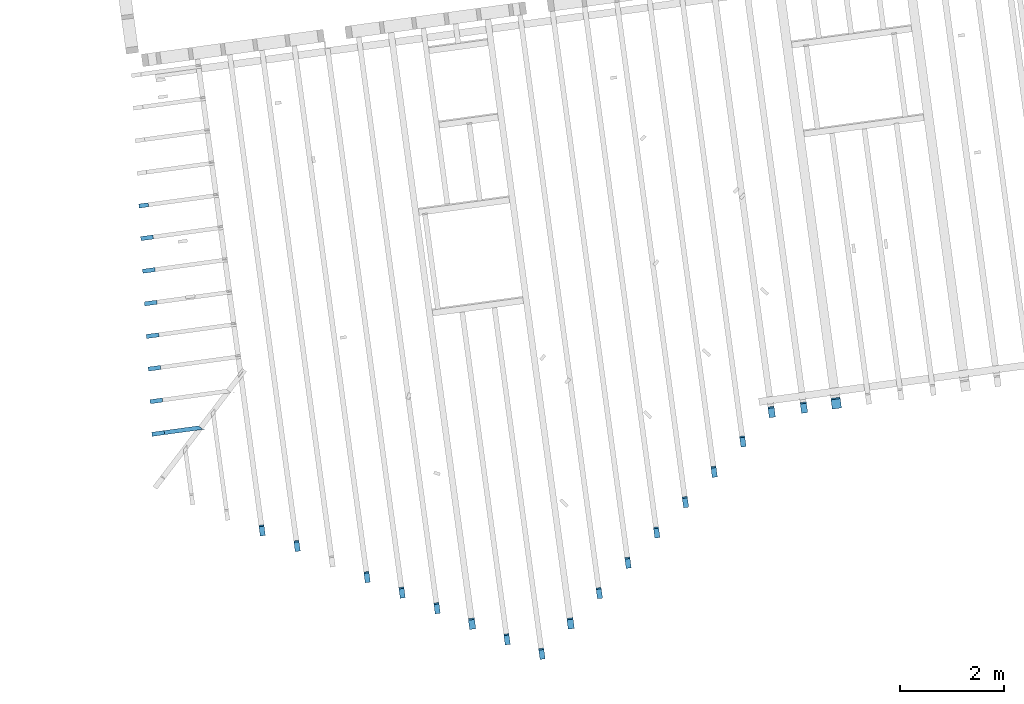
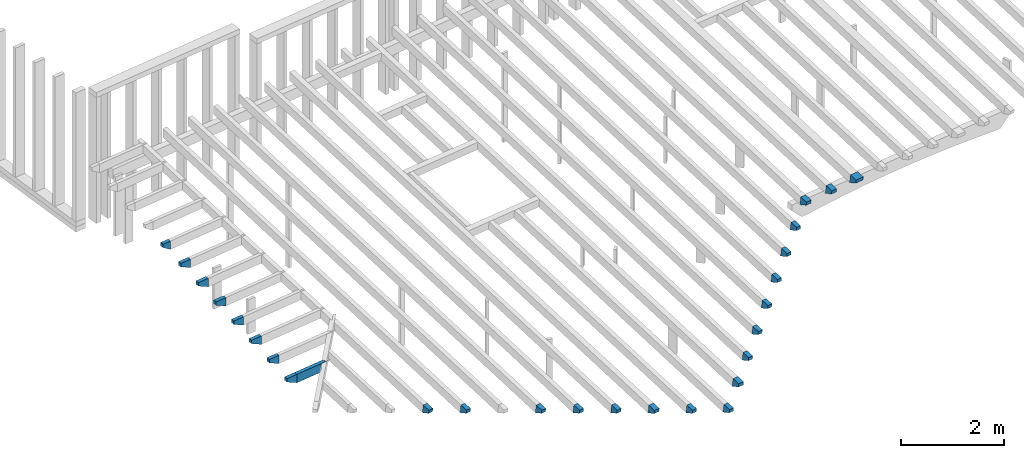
# One storey, part 12 of 16: 27 building element parts, 26 elements without a shape of their own.
"""IFC2X3 building model written with IfcOpenShell, lengths in metres."""

import ifcopenshell
import ifcopenshell.guid

model = None  # the IFC model being written
_history = None  # IfcOwnerHistory: only IFC2X3 demands one
_inside = {}  # id of a spatial element -> (the spatial element, [elements in it])
_under = {}  # id of a project, library or spatial element -> (it, [spatial elements below it])
_declared = {}  # id of a project -> (the project, [libraries it declares])
_typed = {}  # id of a type object -> (the type object, [elements of that type])
_made_of = {}  # id of a material, layer set ... -> (it, [elements and type objects made of it])


def new_model(schema):
    """Start an empty IFC model of exactly this schema.

    Asked for "IFC4X3", IfcOpenShell would pick the latest addendum, in which some entities
    have other attributes; the version numbers below select the first issue.
    IFC2X3 requires an IfcOwnerHistory on every rooted entity: one is made here for all.
    """
    global model, _history
    if schema == "IFC4X3":
        model = ifcopenshell.file(schema_version=(4, 3, 0, 0))
    else:
        model = ifcopenshell.file(schema=schema)
    _inside.clear()
    _under.clear()
    _declared.clear()
    _typed.clear()
    _made_of.clear()
    _history = None
    if model.schema == "IFC2X3":
        org = make("IfcOrganization", Name="unknown")
        user = make(
            "IfcPersonAndOrganization",
            ThePerson=make("IfcPerson", FamilyName="unknown"),
            TheOrganization=org,
        )
        app = make(
            "IfcApplication",
            ApplicationDeveloper=org,
            Version="unknown",
            ApplicationFullName="unknown",
            ApplicationIdentifier="unknown",
        )
        _history = make(
            "IfcOwnerHistory",
            OwningUser=user,
            OwningApplication=app,
            ChangeAction="ADDED",
            CreationDate=0,
        )
    return model


def make(cls, **values):
    """One entity of the class cls with the attributes given. An attribute that is None is left unset."""
    return model.create_entity(
        cls, **{name: value for name, value in values.items() if value is not None}
    )


def entity(cls, *values):
    """Any entity or typed value of the class cls, its attributes in the order of the schema. None: left unset."""
    e = model.create_entity(cls)
    for i, value in enumerate(values):
        if value is not None:
            e[i] = value
    return e


def rooted(cls, **values):
    """An entity with a GlobalId (a new one), such as an element, a storey or a relation."""
    return make(cls, GlobalId=ifcopenshell.guid.new(), OwnerHistory=_history, **values)


def si_unit(unit_type, name, prefix=None):
    """IfcSIUnit, for example si_unit("LENGTHUNIT", "METRE", prefix="MILLI")."""
    return make("IfcSIUnit", UnitType=unit_type, Prefix=prefix, Name=name)


def converted_unit(unit_type, name, factor, base, dimensions=None, offset=None):
    """IfcConversionBasedUnit, such as the inch: factor (a typed value) times the base unit."""
    return make(
        "IfcConversionBasedUnit"
        if offset is None
        else "IfcConversionBasedUnitWithOffset",
        ConversionOffset=offset,
        Dimensions=None
        if dimensions is None
        else entity("IfcDimensionalExponents", *dimensions),
        UnitType=unit_type,
        Name=name,
        ConversionFactor=make(
            "IfcMeasureWithUnit", ValueComponent=factor, UnitComponent=base
        ),
    )


def derived_unit(unit_type, elements):
    """IfcDerivedUnit: a product of units, each with its exponent."""
    return make(
        "IfcDerivedUnit",
        Elements=[
            make("IfcDerivedUnitElement", Unit=unit, Exponent=power)
            for unit, power in elements
        ],
        UnitType=unit_type,
    )


def money_unit(currency):
    """IfcMonetaryUnit."""
    return make("IfcMonetaryUnit", Currency=currency)


def assignment(units):
    """IfcUnitAssignment: the units of a project."""
    return None if units is None else make("IfcUnitAssignment", Units=units)


def point(xyz):
    """IfcCartesianPoint."""
    return None if xyz is None else make("IfcCartesianPoint", Coordinates=xyz)


def direction(xyz):
    """IfcDirection."""
    return None if xyz is None else make("IfcDirection", DirectionRatios=xyz)


def frame(location, z_axis=None, x_axis=None):
    """IfcAxis2Placement3D, a coordinate frame: its origin and axes. An axis left out is left unset."""
    return make(
        "IfcAxis2Placement3D",
        Location=point(location),
        Axis=direction(z_axis),
        RefDirection=direction(x_axis),
    )


def origin_with_axes():
    """The frame at (0, 0, 0) with the z axis (0, 0, 1) and the x axis (1, 0, 0) written out."""
    return frame((0.0, 0.0, 0.0), z_axis=(0.0, 0.0, 1.0), x_axis=(1.0, 0.0, 0.0))


def place(relative_to, where):
    """IfcLocalPlacement: puts the frame where relative to a parent placement (None: the world)."""
    return make(
        "IfcLocalPlacement", PlacementRelTo=relative_to, RelativePlacement=where
    )


def context(
    kind, dimensions, precision=None, world=None, true_north=None, identifier=None
):
    """IfcGeometricRepresentationContext, for example the 3D "Model" context."""
    return make(
        "IfcGeometricRepresentationContext",
        ContextIdentifier=identifier,
        ContextType=kind,
        CoordinateSpaceDimension=dimensions,
        Precision=precision,
        WorldCoordinateSystem=world,
        TrueNorth=true_north,
    )


def subcontext(parent, identifier, kind, view, scale=None):
    """IfcGeometricRepresentationSubContext, for example "Body" below "Model"."""
    return make(
        "IfcGeometricRepresentationSubContext",
        ContextIdentifier=identifier,
        ContextType=kind,
        ParentContext=parent,
        TargetScale=scale,
        TargetView=view,
    )


def project(units=None, contexts=None):
    """IfcProject with its units and contexts."""
    return rooted(
        "IfcProject",
        Name="project",
        RepresentationContexts=contexts,
        UnitsInContext=assignment(units),
    )


def spatial(cls, under=None, at=None, **own):
    """A site, building, storey or space (cls), placed at a placement, below another one or the project."""
    s = rooted(cls, ObjectPlacement=at, **own)
    if under is not None:
        _under.setdefault(under.id(), (under, []))[1].append(s)
    return s


def faces_of(points, faces, orient=None, outer=None):
    """IfcFace entities. A face is a list of loops; a loop is a list of indices into points, from 0.

    orient and outer hold one flag for each loop. By default every Orientation is true, the
    first loop of a face is its IfcFaceOuterBound and the others are IfcFaceBound.
    """
    made = []
    for i, loops in enumerate(faces):
        bounds = []
        for j, loop in enumerate(loops):
            is_outer = j == 0 if outer is None else outer[i][j]
            bounds.append(
                make(
                    "IfcFaceOuterBound" if is_outer else "IfcFaceBound",
                    Bound=make("IfcPolyLoop", Polygon=[points[k] for k in loop]),
                    Orientation=True if orient is None else orient[i][j],
                )
            )
        made.append(make("IfcFace", Bounds=bounds))
    return made


def faceted_brep(points, faces, orient=None, outer=None, voids=None):
    """IfcFacetedBrep: a solid bounded by flat faces; with voids (closed shells), ...WithVoids."""
    shared = [point(p) for p in points]
    hull = make("IfcClosedShell", CfsFaces=faces_of(shared, faces, orient, outer))
    if voids is None:
        return make("IfcFacetedBrep", Outer=hull)
    return make(
        "IfcFacetedBrepWithVoids",
        Outer=hull,
        Voids=[
            make(cls, CfsFaces=faces_of(shared, fs, o, b)) for cls, fs, o, b in voids
        ],
    )


def shape(context_of_items, identifier, shape_type, items):
    """IfcShapeRepresentation: the items that make up one representation, for example the "Body"."""
    return make(
        "IfcShapeRepresentation",
        ContextOfItems=context_of_items,
        RepresentationIdentifier=identifier,
        RepresentationType=shape_type,
        Items=items,
    )


def material(Name=None, Category=None):
    """IfcMaterial."""
    return make("IfcMaterial", Name=Name, Category=Category)


def made_of(thing, what):
    """Note that an element or type object is made of a material, layer set ...; save() writes the relation."""
    if what is not None:
        _made_of.setdefault(what.id(), (what, []))[1].append(thing)
    return thing


def type_object(cls, material=None, **own):
    """A type object (cls), such as IfcWallType, which elements share."""
    return made_of(rooted(cls, **own), material)


def element(
    cls,
    number,
    at=None,
    inside=None,
    cuts=None,
    type_object=None,
    material=None,
    context=None,
    identifier="Body",
    shape_type=None,
    held_by="IfcProductDefinitionShape",
    body=None,
    shapes=None,
    **own,
):
    """One element of the class cls, such as IfcWall. Its Tag is "e" and its number.

    at: its placement. inside: the storey or other place that contains it. cuts: it is an
    opening in that element (IfcRelVoidsElement). A single representation is given by context,
    identifier, shape_type and body (its items); several are given by shapes. held_by: the class
    of the entity that holds the representations. save() writes the other relations.
    """
    e = rooted(cls, Tag="e%d" % number, ObjectPlacement=at, **own)
    if body is not None:
        shapes = [shape(context, identifier, shape_type, body)]
    if shapes is not None:
        e.Representation = make(held_by, Representations=shapes)
    if inside is not None:
        _inside.setdefault(inside.id(), (inside, []))[1].append(e)
    if cuts is not None:
        rooted(
            "IfcRelVoidsElement", RelatingBuildingElement=cuts, RelatedOpeningElement=e
        )
    if type_object is not None:
        _typed.setdefault(type_object.id(), (type_object, []))[1].append(e)
    return made_of(e, material)


def aggregate(whole, parts):
    """IfcRelAggregates: a whole, such as a stair, and the parts it consists of."""
    return rooted("IfcRelAggregates", RelatingObject=whole, RelatedObjects=parts)


def save(model, path):
    """Write the relations noted so far, then the file.

    IfcRelAggregates (storeys below a building ...), IfcRelContainedInSpatialStructure (elements
    in a storey), IfcRelDefinesByType, IfcRelAssociatesMaterial and IfcRelDeclares: one each for
    every whole, place, type object, material and project.
    """
    for whole, parts in _under.values():
        aggregate(whole, parts)
    for where, things in _inside.values():
        rooted(
            "IfcRelContainedInSpatialStructure",
            RelatedElements=things,
            RelatingStructure=where,
        )
    for kind, things in _typed.values():
        rooted("IfcRelDefinesByType", RelatedObjects=things, RelatingType=kind)
    for what, things in _made_of.values():
        rooted("IfcRelAssociatesMaterial", RelatedObjects=things, RelatingMaterial=what)
    for by, libraries in _declared.values():
        rooted("IfcRelDeclares", RelatingContext=by, RelatedDefinitions=libraries)
    model.write(path)


model = new_model("IFC2X3")

# Units and contexts
model_context = context("Model", 3, precision=1e-05, world=origin_with_axes(), true_north=direction((0.0, 1.0)))
body_context = subcontext(model_context, "Body", "Model", "MODEL_VIEW")
ifc_project = project(units=[si_unit("LENGTHUNIT", "METRE"), si_unit("AREAUNIT", "SQUARE_METRE"), si_unit("VOLUMEUNIT", "CUBIC_METRE"), converted_unit("PLANEANGLEUNIT", "DEGREE", entity("IfcPlaneAngleMeasure", 0.0174532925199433), si_unit("PLANEANGLEUNIT", "RADIAN"), dimensions=[0, 0, 0, 0, 0, 0, 0]), money_unit("EUR"), converted_unit("TIMEUNIT", "Year", entity("IfcTimeMeasure", 31557600.0), si_unit("TIMEUNIT", "SECOND"), dimensions=[0, 0, 1, 0, 0, 0, 0]), si_unit("MASSUNIT", "GRAM", prefix="KILO"), si_unit("THERMODYNAMICTEMPERATUREUNIT", "DEGREE_CELSIUS"), si_unit("LUMINOUSINTENSITYUNIT", "LUMEN"), si_unit("ENERGYUNIT", "JOULE", prefix="MEGA"), derived_unit("THERMALCONDUCTANCEUNIT", [(si_unit("POWERUNIT", "WATT"), 1), (si_unit("LENGTHUNIT", "METRE"), -1), (si_unit("THERMODYNAMICTEMPERATUREUNIT", "KELVIN"), -1)]), derived_unit("SPECIFICHEATCAPACITYUNIT", [(si_unit("ENERGYUNIT", "JOULE"), 1), (si_unit("MASSUNIT", "GRAM", prefix="KILO"), -1), (si_unit("THERMODYNAMICTEMPERATUREUNIT", "KELVIN"), -1)]), derived_unit("MASSDENSITYUNIT", [(si_unit("MASSUNIT", "GRAM", prefix="KILO"), 1), (si_unit("VOLUMEUNIT", "CUBIC_METRE"), -1)])], contexts=[model_context])

# Site, building, storey
site_placement = place(None, origin_with_axes())
site = spatial("IfcSite", under=ifc_project, at=site_placement, Name="Gelände", CompositionType="ELEMENT")
building_placement = place(site_placement, origin_with_axes())
building = spatial("IfcBuilding", under=site, at=building_placement, Name="Gebäude", CompositionType="ELEMENT")
storey_placement = place(building_placement, frame((0.0, 0.0, 3.0), z_axis=(0.0, 0.0, 1.0), x_axis=(1.0, 0.0, 0.0)))
storey = spatial("IfcBuildingStorey", under=building, at=storey_placement, Name="ZG", CompositionType="ELEMENT", Elevation=3.0)

# Beam, building element part
beam_type_1 = type_object("IfcBeamType", Name="Verschiedene Strukturen - 2 Segmente - 80 x 200 x 1546 (182+1364)", PredefinedType="NOTDEFINED")
beam_1_placement = place(storey_placement, frame((86.69263476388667, -153.7898522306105, 1.454062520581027), z_axis=(0.0, 0.0, 1.0), x_axis=(0.1357118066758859, -0.9907483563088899, 0.0)))
beam_1 = element("IfcBeam", 1, at=beam_1_placement, inside=storey, type_object=beam_type_1, Name="Unterzug-034")
ifc_material = material(Name="Holz, Bauholz-hart")
building_element_part_1_placement = place(beam_1_placement, origin_with_axes())
building_element_part_1 = element("IfcBuildingElementPart", 2, at=building_element_part_1_placement, material=ifc_material, Name="Holz, Bauholz-hart", context=body_context, shape_type="Brep", body=[
    faceted_brep([(0.04000000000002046, 0.1824875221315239, -0.2000000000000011), (0.04000000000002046, 0.0, -0.0799999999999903), (-0.03999999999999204, 0.0, -0.0799999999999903), (-0.04000000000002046, 0.1824875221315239, -0.2000000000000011), (0.04000000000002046, 0.1824875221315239, 0.0), (0.04000000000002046, 0.0, 0.0), (-0.03999999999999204, 0.0, 0.0), (-0.04000000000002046, 0.1824875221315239, 0.0)], [[[0, 1, 2, 3]], [[4, 5, 1, 0]], [[5, 6, 2, 1]], [[3, 2, 6, 7]], [[4, 0, 3, 7]], [[7, 6, 5, 4]]]),
])
aggregate(beam_1, [building_element_part_1])

beam_type_2 = type_object("IfcBeamType", Name="Verschiedene Strukturen - 2 Segmente - 100 x 200 x 9376 (183+9193)", PredefinedType="NOTDEFINED")
beam_2_placement = place(storey_placement, frame((97.74728750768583, -158.9940395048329, 0.5185833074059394), z_axis=(0.0, 0.0, 1.0), x_axis=(0.9907484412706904, 0.1357111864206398, 0.0)))
beam_2 = element("IfcBeam", 3, at=beam_2_placement, inside=storey, type_object=beam_type_2, Name="Unterzug-034")
building_element_part_2_placement = place(beam_2_placement, origin_with_axes())
building_element_part_2 = element("IfcBuildingElementPart", 4, at=building_element_part_2_placement, material=ifc_material, Name="Holz, Bauholz-hart", context=body_context, shape_type="Brep", body=[
    faceted_brep([(0.05000000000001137, 0.2085613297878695, -0.1726541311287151), (0.05000000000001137, 0.01113384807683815, -0.07922144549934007), (-0.05000000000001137, 0.01113384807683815, -0.07922144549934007), (-0.04999999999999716, 0.2085613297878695, -0.1726541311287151), (0.04999999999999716, 0.1807267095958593, 0.02539948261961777), (0.05000000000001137, 0.0, 0.0), (-0.04999999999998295, 0.0, 0.0), (-0.04999999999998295, 0.1807267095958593, 0.02539948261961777)], [[[0, 1, 2, 3]], [[4, 5, 1, 0]], [[5, 6, 2, 1]], [[3, 2, 6, 7]], [[4, 0, 3, 7]], [[7, 6, 5, 4]]]),
])
aggregate(beam_2, [building_element_part_2])

beam_type_3 = type_object("IfcBeamType", Name="Verschiedene Strukturen - 2 Segmente - 100 x 200 x 9883 (183+9700)", PredefinedType="NOTDEFINED")
beam_3_placement = place(storey_placement, frame((97.19620038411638, -159.5762411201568, 0.4480280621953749), z_axis=(0.0, 0.0, 1.0), x_axis=(0.9907484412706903, 0.1357111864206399, 0.0)))
beam_3 = element("IfcBeam", 5, at=beam_3_placement, inside=storey, type_object=beam_type_3, Name="Unterzug-034")
building_element_part_3_placement = place(beam_3_placement, origin_with_axes())
building_element_part_3 = element("IfcBuildingElementPart", 6, at=building_element_part_3_placement, material=ifc_material, Name="Holz, Bauholz-hart", context=body_context, shape_type="Brep", body=[
    faceted_brep([(0.05000000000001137, 0.2085613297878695, -0.172654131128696), (0.04999999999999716, 0.01113384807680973, -0.07922144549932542), (-0.04999999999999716, 0.01113384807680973, -0.07922144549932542), (-0.05000000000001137, 0.2085613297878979, -0.172654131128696), (0.04999999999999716, 0.1807267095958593, 0.02539948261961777), (0.04999999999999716, 0.0, 0.0), (-0.05000000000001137, 0.0, 0.0), (-0.04999999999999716, 0.1807267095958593, 0.02539948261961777)], [[[0, 1, 2, 3]], [[4, 5, 1, 0]], [[5, 6, 2, 1]], [[3, 2, 6, 7]], [[4, 0, 3, 7]], [[7, 6, 5, 4]]]),
])
aggregate(beam_3, [building_element_part_3])

beam_type_4 = type_object("IfcBeamType", Name="Verschiedene Strukturen - 2 Segmente - 100 x 200 x 10390 (183+10207)", PredefinedType="NOTDEFINED")
beam_4_placement = place(storey_placement, frame((96.64511324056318, -160.1584427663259, 0.3774728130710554), z_axis=(0.0, 0.0, 1.0), x_axis=(0.9907484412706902, 0.1357111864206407, 0.0)))
beam_4 = element("IfcBeam", 7, at=beam_4_placement, inside=storey, type_object=beam_type_4, Name="Unterzug-034")
building_element_part_4_placement = place(beam_4_placement, origin_with_axes())
building_element_part_4 = element("IfcBuildingElementPart", 8, at=building_element_part_4_placement, material=ifc_material, Name="Holz, Bauholz-hart", context=body_context, shape_type="Brep", body=[
    faceted_brep([(0.04999999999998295, 0.208561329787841, -0.1726541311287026), (0.04999999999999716, 0.01113384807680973, -0.07922144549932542), (-0.05000000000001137, 0.01113384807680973, -0.07922144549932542), (-0.05000000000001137, 0.208561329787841, -0.1726541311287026), (0.04999999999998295, 0.1807267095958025, 0.02539948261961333), (0.04999999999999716, 0.0, 0.0), (-0.05000000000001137, 0.0, 0.0), (-0.05000000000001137, 0.1807267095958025, 0.02539948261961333)], [[[0, 1, 2, 3]], [[4, 5, 1, 0]], [[5, 6, 2, 1]], [[3, 2, 6, 7]], [[4, 0, 3, 7]], [[7, 6, 5, 4]]]),
])
aggregate(beam_4, [building_element_part_4])

beam_type_5 = type_object("IfcBeamType", Name="Verschiedene Strukturen - 2 Segmente - 100 x 200 x 10897 (183+10714)", PredefinedType="NOTDEFINED")
beam_5_placement = place(storey_placement, frame((96.09402609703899, -160.7406444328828, 0.306917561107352), z_axis=(0.0, 0.0, 1.0), x_axis=(0.9907484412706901, 0.1357111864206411, 0.0)))
beam_5 = element("IfcBeam", 9, at=beam_5_placement, inside=storey, type_object=beam_type_5, Name="Unterzug-034")
building_element_part_5_placement = place(beam_5_placement, origin_with_axes())
building_element_part_5 = element("IfcBuildingElementPart", 10, at=building_element_part_5_placement, material=ifc_material, Name="Holz, Bauholz-hart", context=body_context, shape_type="Brep", body=[
    faceted_brep([(0.05000000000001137, 0.2085613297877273, -0.1726541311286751), (0.04999999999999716, 0.01113384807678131, -0.07922144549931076), (-0.04999999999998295, 0.01113384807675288, -0.07922144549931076), (-0.05000000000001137, 0.2085613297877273, -0.1726541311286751), (0.04999999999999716, 0.1807267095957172, 0.02539948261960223), (0.04999999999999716, 0.0, 0.0), (-0.05000000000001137, 0.0, 0.0), (-0.04999999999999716, 0.1807267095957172, 0.02539948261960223)], [[[0, 1, 2, 3]], [[4, 5, 1, 0]], [[5, 6, 2, 1]], [[3, 2, 6, 7]], [[4, 0, 3, 7]], [[7, 6, 5, 4]]]),
])
aggregate(beam_5, [building_element_part_5])

beam_type_6 = type_object("IfcBeamType", Name="Verschiedene Strukturen - 2 Segmente - 100 x 200 x 11416 (183+11234)", PredefinedType="NOTDEFINED")
beam_6_placement = place(storey_placement, frame((95.54293893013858, -161.3228461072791, 0.2363623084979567), z_axis=(0.0, 0.0, 1.0), x_axis=(0.9907484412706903, 0.1357111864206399, 0.0)))
beam_6 = element("IfcBeam", 11, at=beam_6_placement, inside=storey, type_object=beam_type_6, Name="Unterzug-034")
building_element_part_6_placement = place(beam_6_placement, origin_with_axes())
building_element_part_6 = element("IfcBuildingElementPart", 12, at=building_element_part_6_placement, material=ifc_material, Name="Holz, Bauholz-hart", context=body_context, shape_type="Brep", body=[
    faceted_brep([(0.05000000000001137, 0.2085613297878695, -0.1726541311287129), (0.04999999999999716, 0.01113384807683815, -0.07922144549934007), (-0.04999999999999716, 0.01113384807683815, -0.07922144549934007), (-0.05000000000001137, 0.2085613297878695, -0.1726541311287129), (0.04999999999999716, 0.1807267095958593, 0.02539948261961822), (0.05000000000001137, 0.0, 0.0), (-0.04999999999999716, 0.0, 0.0), (-0.04999999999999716, 0.1807267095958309, 0.02539948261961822)], [[[0, 1, 2, 3]], [[4, 5, 1, 0]], [[5, 6, 2, 1]], [[3, 2, 6, 7]], [[4, 0, 3, 7]], [[7, 6, 5, 4]]]),
])
aggregate(beam_6, [building_element_part_6])

beam_type_7 = type_object("IfcBeamType", Name="Verschiedene Strukturen - 2 Segmente - 120 x 200 x 11923 (183+11741)", PredefinedType="NOTDEFINED")
beam_7_placement = place(storey_placement, frame((94.99185178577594, -161.9050477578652, 0.1658070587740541), z_axis=(0.0, 0.0, 1.0), x_axis=(0.9907484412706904, 0.1357111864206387, 0.0)))
beam_7 = element("IfcBeam", 13, at=beam_7_placement, inside=storey, type_object=beam_type_7, Name="Unterzug-034")
building_element_part_7_placement = place(beam_7_placement, origin_with_axes())
building_element_part_7 = element("IfcBuildingElementPart", 14, at=building_element_part_7_placement, material=ifc_material, Name="Holz, Bauholz-hart", context=body_context, shape_type="Brep", body=[
    faceted_brep([(0.0600000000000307, 0.2085613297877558, -0.172654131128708), (0.06000000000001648, 0.01113384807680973, -0.07922144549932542), (-0.06000000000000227, 0.01113384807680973, -0.07922144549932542), (-0.05999999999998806, 0.2085613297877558, -0.172654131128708), (0.06000000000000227, 0.1807267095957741, 0.02539948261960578), (0.06000000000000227, 0.0, 0.0), (-0.06000000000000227, 0.0, 0.0), (-0.06000000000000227, 0.1807267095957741, 0.02539948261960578)], [[[0, 1, 2, 3]], [[4, 5, 1, 0]], [[5, 6, 2, 1]], [[3, 2, 6, 7]], [[4, 0, 3, 7]], [[7, 6, 5, 4]]]),
])
aggregate(beam_7, [building_element_part_7])

beam_type_8 = type_object("IfcBeamType", Name="Verschiedene Strukturen - 2 Segmente - 120 x 200 x 11670 (183+11487)", PredefinedType="NOTDEFINED")
beam_8_placement = place(storey_placement, frame((93.10012835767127, -161.9107794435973, 0.2010897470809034), z_axis=(0.0, 0.0, 1.0), x_axis=(0.9907484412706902, 0.135711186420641, 0.0)))
beam_8 = element("IfcBeam", 15, at=beam_8_placement, inside=storey, type_object=beam_type_8, Name="Unterzug-034")
building_element_part_8_placement = place(beam_8_placement, origin_with_axes())
building_element_part_8 = element("IfcBuildingElementPart", 16, at=building_element_part_8_placement, material=ifc_material, Name="Holz, Bauholz-hart", context=body_context, shape_type="Brep", body=[
    faceted_brep([(0.05999999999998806, 0.2085613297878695, -0.1726541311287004), (0.05999999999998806, 0.01113384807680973, -0.07922144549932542), (-0.06000000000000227, 0.01113384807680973, -0.07922144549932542), (-0.06000000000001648, 0.2085613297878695, -0.1726541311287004), (0.05999999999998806, 0.1807267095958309, 0.02539948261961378), (0.06000000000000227, 0.0, 0.0), (-0.06000000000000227, 0.0, 0.0), (-0.06000000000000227, 0.1807267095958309, 0.02539948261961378)], [[[0, 1, 2, 3]], [[4, 5, 1, 0]], [[5, 6, 2, 1]], [[3, 2, 6, 7]], [[4, 0, 3, 7]], [[7, 6, 5, 4]]]),
])
aggregate(beam_8, [building_element_part_8])

beam_type_9 = type_object("IfcBeamType", Name="Verschiedene Strukturen - 2 Segmente - 100 x 200 x 11279 (183+11096)", PredefinedType="NOTDEFINED")
beam_9_placement = place(storey_placement, frame((92.42839764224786, -161.6122324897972, 0.2554715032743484), z_axis=(0.0, 0.0, 1.0), x_axis=(0.9907484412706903, 0.1357111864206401, 0.0)))
beam_9 = element("IfcBeam", 17, at=beam_9_placement, inside=storey, type_object=beam_type_9, Name="Unterzug-034")
building_element_part_9_placement = place(beam_9_placement, origin_with_axes())
building_element_part_9 = element("IfcBuildingElementPart", 18, at=building_element_part_9_placement, material=ifc_material, Name="Holz, Bauholz-hart", context=body_context, shape_type="Brep", body=[
    faceted_brep([(0.05000000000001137, 0.208561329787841, -0.17265413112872), (0.05000000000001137, 0.01113384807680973, -0.07922144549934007), (-0.04999999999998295, 0.01113384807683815, -0.07922144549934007), (-0.04999999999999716, 0.208561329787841, -0.17265413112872), (0.05000000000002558, 0.1807267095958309, 0.02539948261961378), (0.05000000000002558, 0.0, 0.0), (-0.04999999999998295, 0.0, 0.0), (-0.04999999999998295, 0.1807267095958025, 0.02539948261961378)], [[[0, 1, 2, 3]], [[4, 5, 1, 0]], [[5, 6, 2, 1]], [[3, 2, 6, 7]], [[4, 0, 3, 7]], [[7, 6, 5, 4]]]),
])
aggregate(beam_9, [building_element_part_9])

beam_type_10 = type_object("IfcBeamType", Name="Verschiedene Strukturen - 2 Segmente - 100 x 200 x 10888 (183+10706)", PredefinedType="NOTDEFINED")
beam_10_placement = place(storey_placement, frame((91.7566669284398, -161.3136855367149, 0.3098532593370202), z_axis=(0.0, 0.0, 1.0), x_axis=(0.9907484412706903, 0.1357111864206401, 0.0)))
beam_10 = element("IfcBeam", 19, at=beam_10_placement, inside=storey, type_object=beam_type_10, Name="Unterzug-034")
building_element_part_10_placement = place(beam_10_placement, origin_with_axes())
building_element_part_10 = element("IfcBuildingElementPart", 20, at=building_element_part_10_placement, material=ifc_material, Name="Holz, Bauholz-hart", context=body_context, shape_type="Brep", body=[
    faceted_brep([(0.05000000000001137, 0.2085613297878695, -0.1726541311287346), (0.04999999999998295, 0.01113384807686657, -0.07922144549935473), (-0.04999999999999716, 0.01113384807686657, -0.07922144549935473), (-0.04999999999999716, 0.2085613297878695, -0.1726541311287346), (0.04999999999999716, 0.1807267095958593, 0.02539948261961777), (0.05000000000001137, 0.0, 0.0), (-0.04999999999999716, 0.0, 0.0), (-0.04999999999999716, 0.1807267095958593, 0.02539948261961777)], [[[0, 1, 2, 3]], [[4, 5, 1, 0]], [[5, 6, 2, 1]], [[3, 2, 6, 7]], [[4, 0, 3, 7]], [[7, 6, 5, 4]]]),
])
aggregate(beam_10, [building_element_part_10])

beam_type_11 = type_object("IfcBeamType", Name="Verschiedene Strukturen - 2 Segmente - 100 x 200 x 10497 (183+10315)", PredefinedType="NOTDEFINED")
beam_11_placement = place(storey_placement, frame((91.08493619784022, -161.0151385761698, 0.3642350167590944), z_axis=(0.0, 0.0, 1.0), x_axis=(0.9907484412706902, 0.1357111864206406, 0.0)))
beam_11 = element("IfcBeam", 21, at=beam_11_placement, inside=storey, type_object=beam_type_11, Name="Unterzug-034")
building_element_part_11_placement = place(beam_11_placement, origin_with_axes())
building_element_part_11 = element("IfcBuildingElementPart", 22, at=building_element_part_11_placement, material=ifc_material, Name="Holz, Bauholz-hart", context=body_context, shape_type="Brep", body=[
    faceted_brep([(0.05000000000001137, 0.2085613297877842, -0.1726541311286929), (0.04999999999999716, 0.01113384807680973, -0.07922144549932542), (-0.05000000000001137, 0.01113384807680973, -0.07922144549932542), (-0.04999999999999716, 0.2085613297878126, -0.1726541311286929), (0.04999999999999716, 0.1807267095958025, 0.02539948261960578), (0.04999999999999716, 0.0, 0.0), (-0.04999999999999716, 0.0, 0.0), (-0.05000000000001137, 0.1807267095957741, 0.02539948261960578)], [[[0, 1, 2, 3]], [[4, 5, 1, 0]], [[5, 6, 2, 1]], [[3, 2, 6, 7]], [[4, 0, 3, 7]], [[7, 6, 5, 4]]]),
])
aggregate(beam_11, [building_element_part_11])

beam_type_12 = type_object("IfcBeamType", Name="Verschiedene Strukturen - 2 Segmente - 100 x 200 x 9716 (183+9533)", PredefinedType="NOTDEFINED")
beam_12_placement = place(storey_placement, frame((89.74147485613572, -160.4180447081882, 0.4729985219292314), z_axis=(0.0, 0.0, 1.0), x_axis=(0.9907484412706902, 0.1357111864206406, 0.0)))
beam_12 = element("IfcBeam", 23, at=beam_12_placement, inside=storey, type_object=beam_type_12, Name="Unterzug-034")
building_element_part_12_placement = place(beam_12_placement, origin_with_axes())
building_element_part_12 = element("IfcBuildingElementPart", 24, at=building_element_part_12_placement, material=ifc_material, Name="Holz, Bauholz-hart", context=body_context, shape_type="Brep", body=[
    faceted_brep([(0.04999999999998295, 0.2085613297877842, -0.1726541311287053), (0.05000000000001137, 0.01113384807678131, -0.07922144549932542), (-0.05000000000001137, 0.01113384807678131, -0.07922144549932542), (-0.04999999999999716, 0.2085613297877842, -0.1726541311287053), (0.04999999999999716, 0.1807267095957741, 0.02539948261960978), (0.04999999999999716, 0.0, 0.0), (-0.04999999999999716, 0.0, 0.0), (-0.04999999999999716, 0.1807267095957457, 0.02539948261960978)], [[[0, 1, 2, 3]], [[4, 5, 1, 0]], [[5, 6, 2, 1]], [[3, 2, 6, 7]], [[4, 0, 3, 7]], [[7, 6, 5, 4]]]),
])
aggregate(beam_12, [building_element_part_12])

beam_type_13 = type_object("IfcBeamType", Name="Verschiedene Strukturen - 2 Segmente - 100 x 200 x 9325 (183+9143)", PredefinedType="NOTDEFINED")
beam_13_placement = place(storey_placement, frame((89.06974402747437, -160.11949770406, 0.5273802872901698), z_axis=(0.0, 0.0, 1.0), x_axis=(0.9907484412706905, 0.1357111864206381, 0.0)))
beam_13 = element("IfcBeam", 25, at=beam_13_placement, inside=storey, type_object=beam_type_13, Name="Unterzug-034")
building_element_part_13_placement = place(beam_13_placement, origin_with_axes())
building_element_part_13 = element("IfcBuildingElementPart", 26, at=building_element_part_13_placement, material=ifc_material, Name="Holz, Bauholz-hart", context=body_context, shape_type="Brep", body=[
    faceted_brep([(0.04999999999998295, 0.2085613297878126, -0.172654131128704), (0.04999999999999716, 0.01113384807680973, -0.07922144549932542), (-0.05000000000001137, 0.01113384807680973, -0.07922144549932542), (-0.05000000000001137, 0.2085613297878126, -0.172654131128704), (0.04999999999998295, 0.1807267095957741, 0.02539948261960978), (0.04999999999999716, 0.0, 0.0), (-0.05000000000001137, 0.0, 0.0), (-0.05000000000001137, 0.1807267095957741, 0.02539948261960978)], [[[0, 1, 2, 3]], [[4, 5, 1, 0]], [[5, 6, 2, 1]], [[3, 2, 6, 7]], [[4, 0, 3, 7]], [[7, 6, 5, 4]]]),
])
aggregate(beam_13, [building_element_part_13])

beam_type_14 = type_object("IfcBeamType", Name="Verschiedene Strukturen - 2 Segmente - 100 x 200 x 6506 (183+6323)", PredefinedType="NOTDEFINED")
beam_14_placement = place(storey_placement, frame((93.77185913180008, -162.2093264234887, 0.146707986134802), z_axis=(0.0, 0.0, 1.0), x_axis=(0.9907484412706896, 0.1357111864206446, 0.0)))
beam_14 = element("IfcBeam", 27, at=beam_14_placement, inside=storey, type_object=beam_type_14, Name="Unterzug-034")
building_element_part_14_placement = place(beam_14_placement, origin_with_axes())
building_element_part_14 = element("IfcBuildingElementPart", 28, at=building_element_part_14_placement, material=ifc_material, Name="Holz, Bauholz-hart", context=body_context, shape_type="Brep", body=[
    faceted_brep([(0.04999999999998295, 0.2085613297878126, -0.1726541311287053), (0.04999999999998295, 0.01113384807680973, -0.07922144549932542), (-0.05000000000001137, 0.01113384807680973, -0.07922144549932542), (-0.04999999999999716, 0.2085613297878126, -0.1726541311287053), (0.04999999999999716, 0.1807267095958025, 0.02539948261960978), (0.04999999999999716, 0.0, 0.0), (-0.05000000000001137, 0.0, 0.0), (-0.05000000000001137, 0.1807267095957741, 0.02539948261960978)], [[[0, 1, 2, 3]], [[4, 5, 1, 0]], [[5, 6, 2, 1]], [[3, 2, 6, 7]], [[4, 0, 3, 7]], [[7, 6, 5, 4]]]),
])
aggregate(beam_14, [building_element_part_14])

beam_type_15 = type_object("IfcBeamType", Name="Verschiedene Strukturen - 2 Segmente - 100 x 200 x 6875 (183+6693)", PredefinedType="NOTDEFINED")
beam_15_placement = place(storey_placement, frame((94.44076402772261, -162.4872441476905, 0.09525255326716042), z_axis=(0.0, 0.0, 1.0), x_axis=(0.99074844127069, 0.1357111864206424, 0.0)))
beam_15 = element("IfcBeam", 29, at=beam_15_placement, inside=storey, type_object=beam_type_15, Name="Unterzug-034")
building_element_part_15_placement = place(beam_15_placement, origin_with_axes())
building_element_part_15 = element("IfcBuildingElementPart", 30, at=building_element_part_15_placement, material=ifc_material, Name="Holz, Bauholz-hart", context=body_context, shape_type="Brep", body=[
    faceted_brep([(0.04999999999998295, 0.2085613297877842, -0.1726541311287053), (0.05000000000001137, 0.01113384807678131, -0.07922144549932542), (-0.05000000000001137, 0.01113384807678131, -0.07922144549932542), (-0.04999999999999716, 0.2085613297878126, -0.1726541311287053), (0.04999999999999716, 0.1807267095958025, 0.02539948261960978), (0.05000000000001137, 0.0, 0.0), (-0.05000000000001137, 0.0, 0.0), (-0.04999999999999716, 0.1807267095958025, 0.02539948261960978)], [[[0, 1, 2, 3]], [[4, 5, 1, 0]], [[5, 6, 2, 1]], [[3, 2, 6, 7]], [[4, 0, 3, 7]], [[7, 6, 5, 4]]]),
])
aggregate(beam_15, [building_element_part_15])

beam_type_16 = type_object("IfcBeamType", Name="Verschiedene Strukturen - 2 Segmente - 120 x 200 x 8379 (183+8197)", PredefinedType="NOTDEFINED")
beam_16_placement = place(storey_placement, frame((98.85178619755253, -157.8466050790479, 0.6572867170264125), z_axis=(0.0, 0.0, 1.0), x_axis=(0.9907484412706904, 0.1357111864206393, 0.0)))
beam_16 = element("IfcBeam", 31, at=beam_16_placement, inside=storey, type_object=beam_type_16, Name="Unterzug-034")
building_element_part_16_placement = place(beam_16_placement, origin_with_axes())
building_element_part_16 = element("IfcBuildingElementPart", 32, at=building_element_part_16_placement, material=ifc_material, Name="Holz, Bauholz-hart", context=body_context, shape_type="Brep", body=[
    faceted_brep([(0.06000000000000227, 0.2085613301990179, -0.1726541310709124), (0.06000000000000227, 0.01113384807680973, -0.07922144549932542), (-0.06000000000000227, 0.01113384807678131, -0.07922144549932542), (-0.05999999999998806, 0.2085613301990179, -0.1726541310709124), (0.05999999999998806, 0.1807267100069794, 0.02539948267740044), (0.06000000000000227, 0.0, 0.0), (-0.06000000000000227, 0.0, 0.0), (-0.06000000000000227, 0.1807267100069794, 0.02539948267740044)], [[[0, 1, 2, 3]], [[4, 5, 1, 0]], [[5, 6, 2, 1]], [[3, 2, 6, 7]], [[4, 0, 3, 7]], [[7, 6, 5, 4]]]),
])
aggregate(beam_16, [building_element_part_16])

beam_type_17 = type_object("IfcBeamType", Name="Verschiedene Strukturen - 2 Segmente - 80 x 200 x 1794 (240+1554)", PredefinedType="NOTDEFINED")
beam_17_placement = place(storey_placement, frame((86.87074486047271, -156.9196362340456, 1.014872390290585), z_axis=(0.0, 0.0, 1.0), x_axis=(0.135711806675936, -0.990748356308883, 0.0)))
beam_17 = element("IfcBeam", 33, at=beam_17_placement, inside=storey, type_object=beam_type_17, Name="Unterzug-034")
building_element_part_17_placement = place(beam_17_placement, origin_with_axes())
building_element_part_17 = element("IfcBuildingElementPart", 34, at=building_element_part_17_placement, material=ifc_material, Name="Holz, Bauholz-hart", context=body_context, shape_type="Brep", body=[
    faceted_brep([(0.04000000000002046, 0.2399999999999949, -0.1999999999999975), (0.04000000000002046, 0.0, -0.08000000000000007), (-0.03999999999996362, 0.0, -0.08000000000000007), (-0.03999999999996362, 0.2399999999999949, -0.1999999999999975), (0.04000000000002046, 0.2399999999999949, 0.0), (0.04000000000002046, 0.0, 0.0), (-0.03999999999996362, 0.0, 0.0), (-0.03999999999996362, 0.2399999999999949, 0.0)], [[[0, 1, 2, 3]], [[4, 5, 1, 0]], [[5, 6, 2, 1]], [[3, 2, 6, 7]], [[4, 0, 3, 7]], [[7, 6, 5, 4]]]),
])
aggregate(beam_17, [building_element_part_17])

beam_type_18 = type_object("IfcBeamType", Name="Verschiedene Strukturen - 2 Segmente - 80 x 200 x 1630 (240+1390)", PredefinedType="NOTDEFINED")
beam_18_placement = place(storey_placement, frame((86.90633458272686, -157.5455974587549, 0.9270343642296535), z_axis=(0.0, 0.0, 1.0), x_axis=(0.135711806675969, -0.9907483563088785, 0.0)))
beam_18 = element("IfcBeam", 35, at=beam_18_placement, inside=storey, type_object=beam_type_18, Name="Unterzug-034")
building_element_part_18_placement = place(beam_18_placement, origin_with_axes())
building_element_part_18 = element("IfcBuildingElementPart", 36, at=building_element_part_18_placement, material=ifc_material, Name="Holz, Bauholz-hart", context=body_context, shape_type="Brep", body=[
    faceted_brep([(0.03999999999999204, 0.2399999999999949, -0.1999999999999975), (0.03999999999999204, 0.0, -0.08000000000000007), (-0.04000000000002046, 0.0, -0.08000000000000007), (-0.03999999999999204, 0.2399999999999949, -0.1999999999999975), (0.03999999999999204, 0.2399999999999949, 0.0), (0.03999999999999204, 0.0, 0.0), (-0.04000000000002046, 0.0, 0.0), (-0.03999999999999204, 0.2399999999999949, 0.0)], [[[0, 1, 2, 3]], [[4, 5, 1, 0]], [[5, 6, 2, 1]], [[3, 2, 6, 7]], [[4, 0, 3, 7]], [[7, 6, 5, 4]]]),
])
aggregate(beam_18, [building_element_part_18])

beam_type_19 = type_object("IfcBeamType", Name="Verschiedene Strukturen - 2 Segmente - 80 x 200 x 1745 (240+1505)", PredefinedType="NOTDEFINED")
beam_19_placement = place(storey_placement, frame((86.83510130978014, -156.2936823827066, 1.102710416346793), z_axis=(0.0, 0.0, 1.0), x_axis=(0.1357118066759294, -0.9907483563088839, 0.0)))
beam_19 = element("IfcBeam", 37, at=beam_19_placement, inside=storey, type_object=beam_type_19, Name="Unterzug-034")
building_element_part_19_placement = place(beam_19_placement, origin_with_axes())
building_element_part_19 = element("IfcBuildingElementPart", 38, at=building_element_part_19_placement, material=ifc_material, Name="Holz, Bauholz-hart", context=body_context, shape_type="Brep", body=[
    faceted_brep([(0.03999999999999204, 0.2399999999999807, -0.1999999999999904), (0.03999999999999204, 0.0, -0.07999999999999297), (-0.03999999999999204, 0.0, -0.07999999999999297), (-0.04000000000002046, 0.2399999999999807, -0.1999999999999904), (0.03999999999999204, 0.2399999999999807, 0.0), (0.03999999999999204, 0.0, 0.0), (-0.03999999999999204, 0.0, 0.0), (-0.04000000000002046, 0.2399999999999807, 0.0)], [[[0, 1, 2, 3]], [[4, 5, 1, 0]], [[5, 6, 2, 1]], [[3, 2, 6, 7]], [[4, 0, 3, 7]], [[7, 6, 5, 4]]]),
])
aggregate(beam_19, [building_element_part_19])

beam_type_20 = type_object("IfcBeamType", Name="Verschiedene Strukturen - 2 Segmente - 80 x 200 x 1645 (240+1405)", PredefinedType="NOTDEFINED")
beam_20_placement = place(storey_placement, frame((86.76386803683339, -155.0417673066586, 1.278386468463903), z_axis=(0.0, 0.0, 1.0), x_axis=(0.1357118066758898, -0.9907483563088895, 0.0)))
beam_20 = element("IfcBeam", 39, at=beam_20_placement, inside=storey, type_object=beam_type_20, Name="Unterzug-034")
building_element_part_20_placement = place(beam_20_placement, origin_with_axes())
building_element_part_20 = element("IfcBuildingElementPart", 40, at=building_element_part_20_placement, material=ifc_material, Name="Holz, Bauholz-hart", context=body_context, shape_type="Brep", body=[
    faceted_brep([(0.03999999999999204, 0.2400000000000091, -0.1999999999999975), (0.03999999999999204, 0.0, -0.08000000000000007), (-0.03999999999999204, 0.0, -0.08000000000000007), (-0.04000000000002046, 0.2400000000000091, -0.1999999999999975), (0.03999999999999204, 0.2400000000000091, 0.0), (0.03999999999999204, 0.0, 0.0), (-0.03999999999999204, 0.0, 0.0), (-0.04000000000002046, 0.2400000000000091, 0.0)], [[[0, 1, 2, 3]], [[4, 5, 1, 0]], [[5, 6, 2, 1]], [[3, 2, 6, 7]], [[4, 0, 3, 7]], [[7, 6, 5, 4]]]),
])
aggregate(beam_20, [building_element_part_20])

# Beam, building element parts
beam_type_21 = type_object("IfcBeamType", Name="Verschiedene Strukturen - 2 Segmente - 80 x 200 x 1055 (240+815)", PredefinedType="NOTDEFINED")
beam_21_placement = place(storey_placement, frame((86.94195121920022, -158.1715549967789, 0.8391963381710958), z_axis=(0.0, 0.0, 1.0), x_axis=(0.1357118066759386, -0.9907483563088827, 0.0)))
beam_21 = element("IfcBeam", 41, at=beam_21_placement, inside=storey, type_object=beam_type_21, Name="Unterzug-034")
building_element_part_21_placement = place(beam_21_placement, origin_with_axes())
building_element_part_21 = element("IfcBuildingElementPart", 42, at=building_element_part_21_placement, material=ifc_material, Name="Holz, Bauholz-hart", context=body_context, shape_type="Brep", body=[
    faceted_brep([(0.04000000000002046, 0.2399999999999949, -0.1999999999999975), (0.03999999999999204, 0.0, -0.07999999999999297), (-0.04000000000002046, 0.0, -0.07999999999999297), (-0.04000000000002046, 0.2400000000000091, -0.1999999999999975), (0.04000000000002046, 0.2399999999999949, 0.0), (0.03999999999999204, 0.0, 0.0), (-0.04000000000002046, 0.0, 0.0), (-0.04000000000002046, 0.2400000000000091, 0.0)], [[[0, 1, 2, 3]], [[4, 5, 1, 0]], [[5, 6, 2, 1]], [[3, 2, 6, 7]], [[4, 0, 3, 7]], [[7, 6, 5, 4]]]),
])
building_element_part_22_placement = place(beam_21_placement, origin_with_axes())
building_element_part_22 = element("IfcBuildingElementPart", 43, at=building_element_part_22_placement, material=ifc_material, Name="Holz, Bauholz-hart", context=body_context, shape_type="Brep", body=[
    faceted_brep([(0.04000000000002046, 1.054987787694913, -0.0006527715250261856), (0.04000000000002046, 0.9749877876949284, -0.0006527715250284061), (0.03535528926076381, 0.9796324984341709, 0.0), (0.03535528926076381, 1.054987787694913, 0.0), (0.04000000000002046, 0.8335664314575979, -0.2000000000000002), (0.03999999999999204, 0.8335664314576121, -0.01059050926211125), (0.04000000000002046, 1.054987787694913, 0.0), (0.04000000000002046, 0.2400000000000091, 0.0), (0.04000000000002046, 0.2400000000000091, -0.2000000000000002), (-0.03535538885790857, 0.9089218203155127, 0.0), (-0.03999999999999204, 0.913566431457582, 0.0), (-0.04000000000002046, 0.2400000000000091, 0.0), (-0.03999999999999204, 0.9135664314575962, -0.2000000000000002), (-0.04000000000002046, 0.2400000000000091, -0.2000000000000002)], [[[0, 1, 2, 3]], [[4, 5, 1, 0, 6, 7, 8]], [[5, 9, 2, 1]], [[2, 9, 10, 11, 7, 6, 3]], [[3, 6, 0]], [[4, 12, 10, 9, 5]], [[8, 7, 11, 13]], [[13, 12, 4, 8]], [[11, 10, 12, 13]]]),
])
aggregate(beam_21, [building_element_part_21, building_element_part_22])

# Beam, building element part
beam_type_22 = type_object("IfcBeamType", Name="Verschiedene Strukturen - 2 Segmente - 80 x 200 x 1596 (240+1356)", PredefinedType="NOTDEFINED")
beam_22_placement = place(storey_placement, frame((86.72825140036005, -154.4158097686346, 1.366224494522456), z_axis=(0.0, 0.0, 1.0), x_axis=(0.135711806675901, -0.9907483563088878, 0.0)))
beam_22 = element("IfcBeam", 44, at=beam_22_placement, inside=storey, type_object=beam_type_22, Name="Unterzug-034")
building_element_part_23_placement = place(beam_22_placement, origin_with_axes())
building_element_part_23 = element("IfcBuildingElementPart", 45, at=building_element_part_23_placement, material=ifc_material, Name="Holz, Bauholz-hart", context=body_context, shape_type="Brep", body=[
    faceted_brep([(0.04000000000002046, 0.2399999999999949, -0.2000000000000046), (0.04000000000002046, 0.0, -0.08000000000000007), (-0.03999999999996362, 0.0, -0.08000000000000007), (-0.03999999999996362, 0.2399999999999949, -0.2000000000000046), (0.04000000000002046, 0.2399999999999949, 0.0), (0.04000000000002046, 0.0, 0.0), (-0.03999999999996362, 0.0, 0.0), (-0.03999999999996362, 0.2399999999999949, 0.0)], [[[0, 1, 2, 3]], [[4, 5, 1, 0]], [[5, 6, 2, 1]], [[3, 2, 6, 7]], [[4, 0, 3, 7]], [[7, 6, 5, 4]]]),
])
aggregate(beam_22, [building_element_part_23])

beam_type_23 = type_object("IfcBeamType", Name="Verschiedene Strukturen - 2 Segmente - 80 x 200 x 1695 (240+1455)", PredefinedType="NOTDEFINED")
beam_23_placement = place(storey_placement, frame((86.79948467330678, -155.6677248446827, 1.190548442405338), z_axis=(0.0, 0.0, 1.0), x_axis=(0.1357118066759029, -0.9907483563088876, 0.0)))
beam_23 = element("IfcBeam", 46, at=beam_23_placement, inside=storey, type_object=beam_type_23, Name="Unterzug-034")
building_element_part_24_placement = place(beam_23_placement, origin_with_axes())
building_element_part_24 = element("IfcBuildingElementPart", 47, at=building_element_part_24_placement, material=ifc_material, Name="Holz, Bauholz-hart", context=body_context, shape_type="Brep", body=[
    faceted_brep([(0.04000000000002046, 0.2400000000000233, -0.2000000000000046), (0.04000000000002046, 0.0, -0.08000000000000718), (-0.04000000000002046, 0.0, -0.08000000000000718), (-0.04000000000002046, 0.2400000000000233, -0.2000000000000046), (0.04000000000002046, 0.2400000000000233, 0.0), (0.04000000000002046, 0.0, 0.0), (-0.04000000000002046, 0.0, 0.0), (-0.04000000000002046, 0.2400000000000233, 0.0)], [[[0, 1, 2, 3]], [[4, 5, 1, 0]], [[5, 6, 2, 1]], [[3, 2, 6, 7]], [[4, 0, 3, 7]], [[7, 6, 5, 4]]]),
])
aggregate(beam_23, [building_element_part_24])

beam_type_24 = type_object("IfcBeamType", Name="Verschiedene Strukturen - 2 Segmente - 100 x 200 x 8869 (183+8686)", PredefinedType="NOTDEFINED")
beam_24_placement = place(storey_placement, frame((98.29837467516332, -158.411837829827, 0.5891385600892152), z_axis=(0.0, 0.0, 1.0), x_axis=(0.9907484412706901, 0.1357111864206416, 0.0)))
beam_24 = element("IfcBeam", 48, at=beam_24_placement, inside=storey, type_object=beam_type_24, Name="Unterzug-034")
building_element_part_25_placement = place(beam_24_placement, origin_with_axes())
building_element_part_25 = element("IfcBuildingElementPart", 49, at=building_element_part_25_placement, material=ifc_material, Name="Holz, Bauholz-hart", context=body_context, shape_type="Brep", body=[
    faceted_brep([(0.05000000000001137, 0.2085613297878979, -0.1726541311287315), (0.05000000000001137, 0.01113384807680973, -0.07922144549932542), (-0.05000000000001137, 0.01113384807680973, -0.07922144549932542), (-0.04999999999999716, 0.2085613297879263, -0.1726541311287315), (0.04999999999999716, 0.1807267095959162, 0.02539948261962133), (0.05000000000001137, 0.0, 0.0), (-0.04999999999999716, 0.0, 0.0), (-0.04999999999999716, 0.1807267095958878, 0.02539948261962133)], [[[0, 1, 2, 3]], [[4, 5, 1, 0]], [[5, 6, 2, 1]], [[3, 2, 6, 7]], [[4, 0, 3, 7]], [[7, 6, 5, 4]]]),
])
aggregate(beam_24, [building_element_part_25])

beam_type_25 = type_object("IfcBeamType", Name="Verschiedene Strukturen - 2 Segmente - 180 x 200 x 8379 (183+8197)", PredefinedType="NOTDEFINED")
beam_25_placement = place(storey_placement, frame((100.0902223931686, -157.6769707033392, 0.6572859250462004), z_axis=(0.0, 0.0, 1.0), x_axis=(0.9907484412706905, 0.1357111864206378, 0.0)))
beam_25 = element("IfcBeam", 50, at=beam_25_placement, inside=storey, type_object=beam_type_25, Name="Unterzug-034")
building_element_part_26_placement = place(beam_25_placement, origin_with_axes())
building_element_part_26 = element("IfcBuildingElementPart", 51, at=building_element_part_26_placement, material=ifc_material, Name="Holz, Bauholz-hart", context=body_context, shape_type="Brep", body=[
    faceted_brep([(0.0899999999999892, 0.208566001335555, -0.1726534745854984), (0.09000000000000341, 0.01113384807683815, -0.07922144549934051), (-0.09000000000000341, 0.01113384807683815, -0.07922144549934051), (-0.09000000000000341, 0.2085660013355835, -0.1726534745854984), (0.0899999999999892, 0.1807313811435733, 0.02540013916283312), (0.0899999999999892, 0.0, 0.0), (-0.09000000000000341, 0.0, 0.0), (-0.09000000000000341, 0.1807313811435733, 0.02540013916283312)], [[[0, 1, 2, 3]], [[4, 5, 1, 0]], [[5, 6, 2, 1]], [[3, 2, 6, 7]], [[4, 0, 3, 7]], [[7, 6, 5, 4]]]),
])
aggregate(beam_25, [building_element_part_26])

beam_type_26 = type_object("IfcBeamType", Name="Verschiedene Strukturen - 2 Segmente - 120 x 200 x 8252 (183+8070)", PredefinedType="NOTDEFINED")
beam_26_placement = place(storey_placement, frame((99.47100393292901, -157.761785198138, 0.6572867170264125), z_axis=(0.0, 0.0, 1.0), x_axis=(0.9907484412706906, 0.1357111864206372, 0.0)))
beam_26 = element("IfcBeam", 52, at=beam_26_placement, inside=storey, type_object=beam_type_26, Name="Unterzug-034")
building_element_part_27_placement = place(beam_26_placement, origin_with_axes())
building_element_part_27 = element("IfcBuildingElementPart", 53, at=building_element_part_27_placement, material=ifc_material, Name="Holz, Bauholz-hart", context=body_context, shape_type="Brep", body=[
    faceted_brep([(0.06000000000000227, 0.2085609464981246, -0.1726541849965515), (0.06000000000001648, 0.01113384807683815, -0.07922144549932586), (-0.06000000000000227, 0.01113384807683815, -0.07922144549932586), (-0.05999999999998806, 0.2085609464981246, -0.1726541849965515), (0.05999999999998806, 0.1807263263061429, 0.02539942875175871), (0.06000000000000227, 0.0, 0.0), (-0.06000000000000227, 0.0, 0.0), (-0.06000000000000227, 0.1807263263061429, 0.02539942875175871)], [[[0, 1, 2, 3]], [[4, 5, 1, 0]], [[5, 6, 2, 1]], [[3, 2, 6, 7]], [[4, 0, 3, 7]], [[7, 6, 5, 4]]]),
])
aggregate(beam_26, [building_element_part_27])

save(model, "model.ifc")
